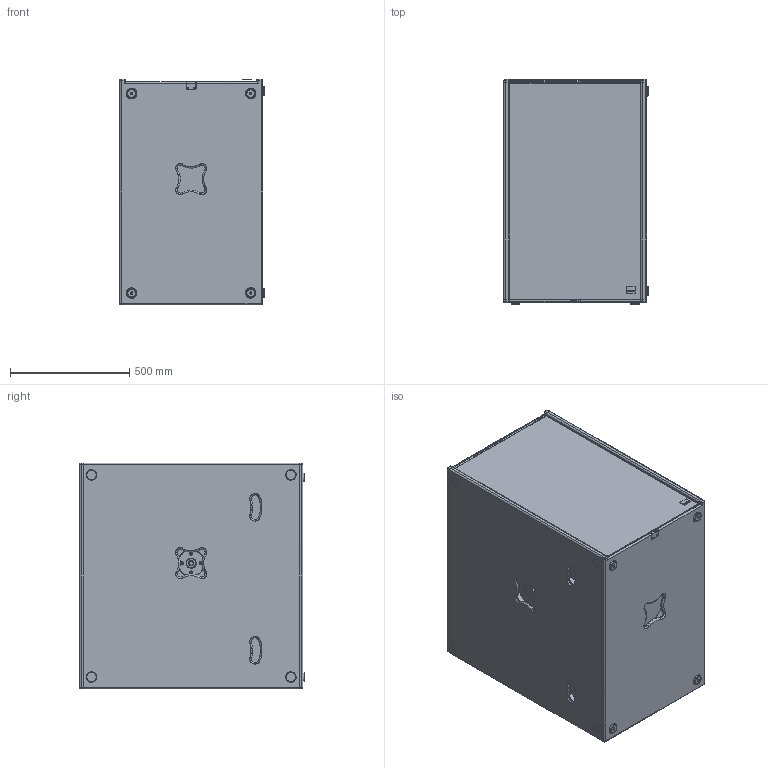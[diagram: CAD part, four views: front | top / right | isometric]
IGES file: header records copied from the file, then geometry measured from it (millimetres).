
Start section: SolidWorks IGES file using analytic representation for surfaces
Global section: file name: C:\Dokumente und Einstellungen\PC_Fabian\Desktop\Galeo_und_Co\Seeburg_Galeo-Sub-GV.IGS; native system: SolidWorks 2009; preprocessor: SolidWorks 2009; author: PC_Fabian; date: 121017.112215; units: millimetre
Bounding box: 607.06 x 944.01 x 948.11 mm (x, y, z)
Surface area: 8744779.8 mm2 (no closed solid volume)
Topology: 0 solids, 0 shells, 1234 faces, 17818 edges, 17810 vertices
Faces by surface type: bspline 646, revolution 588
